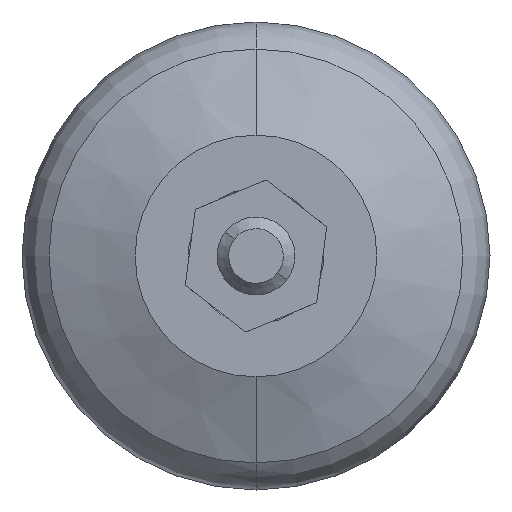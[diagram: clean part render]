
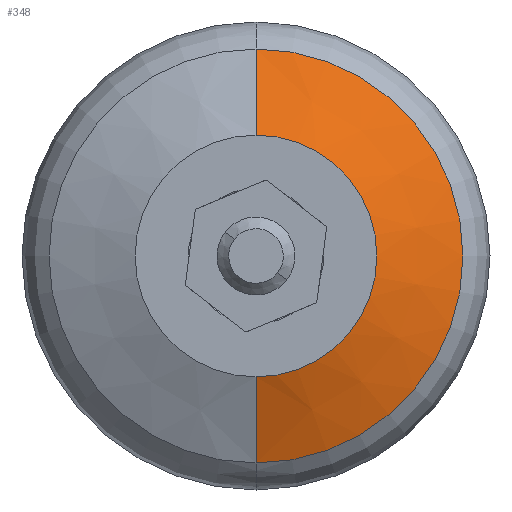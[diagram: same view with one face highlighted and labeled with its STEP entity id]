
A CAD part, front view. The second image highlights one B-rep face of the part: STEP entity #348.
In plain terms, the highlighted conical face has half-angle 68 degrees and reference radius 15.5 mm.
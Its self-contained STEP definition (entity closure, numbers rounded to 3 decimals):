
#321 = ORIENTED_EDGE ( 'NONE', *, *, #322, .T. ) ;
#322 = EDGE_CURVE ( 'NONE', #323, #324, #1273, .T. ) ;
#323 = VERTEX_POINT ( 'NONE', #1268 ) ;
#324 = VERTEX_POINT ( 'NONE', #1267 ) ;
#325 = ORIENTED_EDGE ( 'NONE', *, *, #326, .T. ) ;
#326 = EDGE_CURVE ( 'NONE', #324, #342, #1266, .T. ) ;
#327 = ORIENTED_EDGE ( 'NONE', *, *, #340, .F. ) ;
#328 = ORIENTED_EDGE ( 'NONE', *, *, #329, .F. ) ;
#329 = EDGE_CURVE ( 'NONE', #323, #341, #1262, .T. ) ;
#340 = EDGE_CURVE ( 'NONE', #341, #342, #1303, .T. ) ;
#341 = VERTEX_POINT ( 'NONE', #1294 ) ;
#342 = VERTEX_POINT ( 'NONE', #1293 ) ;
#348 = ADVANCED_FACE ( 'NONE', ( #1344 ), #1343, .T. ) ;
#399 = EDGE_LOOP ( 'NONE', ( #321, #325, #327, #328 ) ) ;
#1259 = DIRECTION ( 'NONE',  ( 0., 0.375, 0.927 ) ) ;
#1260 = VECTOR ( 'NONE', #1259, 1000. ) ;
#1261 = CARTESIAN_POINT ( 'NONE',  ( 0., -15., 15.5 ) ) ;
#1262 = LINE ( 'NONE', #1261, #1260 ) ;
#1263 = DIRECTION ( 'NONE',  ( 0., 0.375, -0.927 ) ) ;
#1264 = VECTOR ( 'NONE', #1263, 1000. ) ;
#1265 = CARTESIAN_POINT ( 'NONE',  ( 0., -15., -15.5 ) ) ;
#1266 = LINE ( 'NONE', #1265, #1264 ) ;
#1267 = CARTESIAN_POINT ( 'NONE',  ( 0., -15., -15.5 ) ) ;
#1268 = CARTESIAN_POINT ( 'NONE',  ( 0., -15., 15.5 ) ) ;
#1269 = DIRECTION ( 'NONE',  ( 0., 0., 1. ) ) ;
#1270 = DIRECTION ( 'NONE',  ( 0., 1., 0. ) ) ;
#1271 = CARTESIAN_POINT ( 'NONE',  ( 0., -15., 0. ) ) ;
#1272 = AXIS2_PLACEMENT_3D ( 'NONE', #1271, #1270, #1269 ) ;
#1273 = CIRCLE ( 'NONE', #1272, 15.5 ) ;
#1293 = CARTESIAN_POINT ( 'NONE',  ( 0., -10.541, -26.536 ) ) ;
#1294 = CARTESIAN_POINT ( 'NONE',  ( 0., -10.541, 26.536 ) ) ;
#1295 = DIRECTION ( 'NONE',  ( 0., 0., 1. ) ) ;
#1296 = DIRECTION ( 'NONE',  ( 0., 1., 0. ) ) ;
#1297 = CARTESIAN_POINT ( 'NONE',  ( 0., -10.541, 0. ) ) ;
#1298 = AXIS2_PLACEMENT_3D ( 'NONE', #1297, #1296, #1295 ) ;
#1303 = CIRCLE ( 'NONE', #1298, 26.536 ) ;
#1339 = DIRECTION ( 'NONE',  ( 0., 0., 1. ) ) ;
#1340 = DIRECTION ( 'NONE',  ( 0., 1., 0. ) ) ;
#1341 = CARTESIAN_POINT ( 'NONE',  ( 0., -15., 0. ) ) ;
#1342 = AXIS2_PLACEMENT_3D ( 'NONE', #1341, #1340, #1339 ) ;
#1343 = CONICAL_SURFACE ( 'NONE', #1342, 15.5, 1.187 ) ;
#1344 = FACE_OUTER_BOUND ( 'NONE', #399, .T. ) ;
